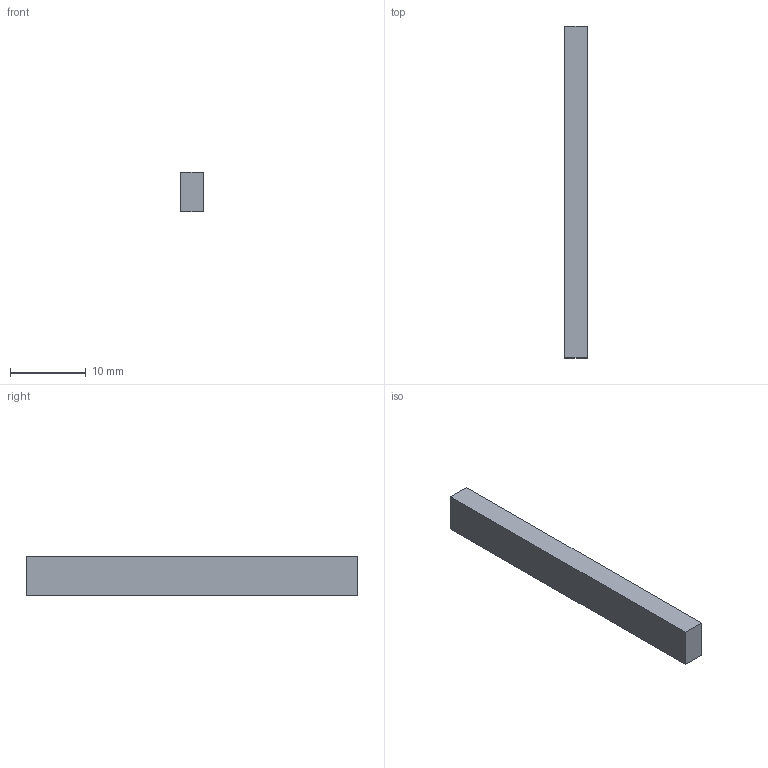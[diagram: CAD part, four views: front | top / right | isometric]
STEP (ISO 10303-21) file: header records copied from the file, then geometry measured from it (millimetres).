
FILE_DESCRIPTION (( 'STEP AP203' ), '1' );
FILE_NAME ('upperholder_spacer.step', '2026-06-05T03:32:58', ( '' ), ( '' ), 'SwSTEP 2.0', 'SolidWorks 2024', '' );
FILE_SCHEMA (( 'CONFIG_CONTROL_DESIGN' ));
Length unit declared in the file: millimetre
Products named in the file (1): upperholder_spacer
Bounding box: 3 x 43.8 x 5.2 mm (x, y, z)
Volume: 683.3 mm3; surface area: 749.5 mm2
Topology: 1 solids, 1 shells, 6 faces, 12 edges, 8 vertices
Faces by surface type: plane 6
Entity records: 233 total; most frequent: CARTESIAN_POINT 27, DIRECTION 26, ORIENTED_EDGE 24, LINE 12, EDGE_CURVE 12, VECTOR 12, PERSON_AND_ORGANIZATION 8, VERTEX_POINT 8
